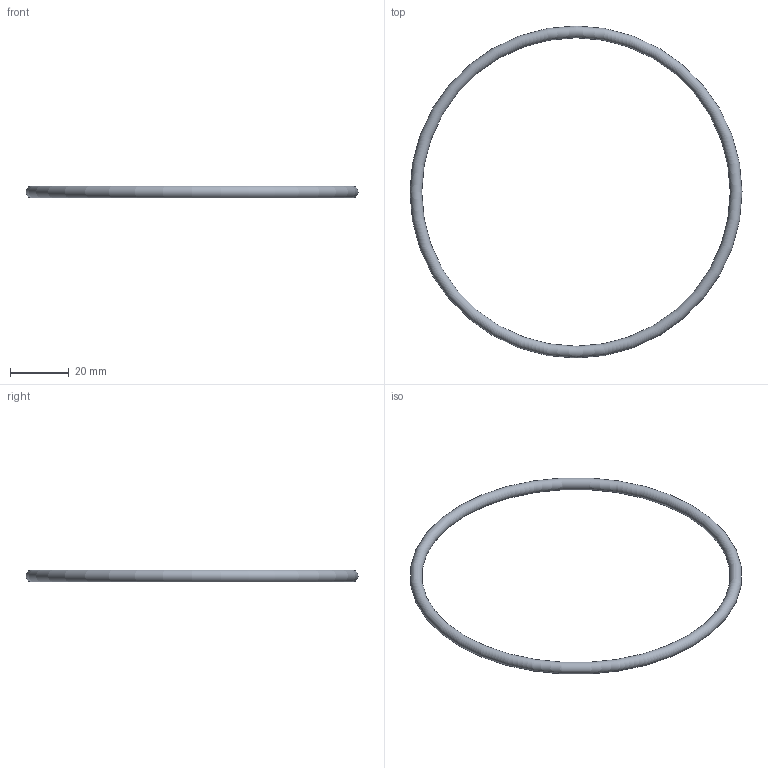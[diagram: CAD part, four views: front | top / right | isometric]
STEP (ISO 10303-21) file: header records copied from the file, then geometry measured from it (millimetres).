
FILE_DESCRIPTION(/* description */ (''),/* implementation_level */ '2;1');
FILE_NAME(/* name */ '1302N272_Oil-Resistant Buna-N O-Ring.stp',/* time_stamp */ '2026-07-13T09:08:21+03:00',/* author */ ('USER'),/* organization */ (''),/* preprocessor_version */ 'ST-DEVELOPER v20',/* originating_system */ 'Autodesk Inventor 2025',/* authorisation */ '');
FILE_SCHEMA (('AUTOMOTIVE_DESIGN { 1 0 10303 214 3 1 1 }'));
Length unit declared in the file: millimetre
Products named in the file (1): 1302N272_Oil-Resistant Buna-N O-Ring
Bounding box: 113 x 113 x 4 mm (x, y, z)
Volume: 4303.1 mm3; surface area: 4303.1 mm2
Topology: 1 solids, 1 shells, 1 faces, 2 edges, 1 vertices
Faces by surface type: torus 1
Entity records: 77 total; most frequent: DIRECTION 8, CARTESIAN_POINT 5, ORIENTED_EDGE 4, AXIS2_PLACEMENT_3D 4, CIRCLE 2, EDGE_CURVE 2, DERIVED_UNIT_ELEMENT 2, PROPERTY_DEFINITION_REPRESENTATION 2
